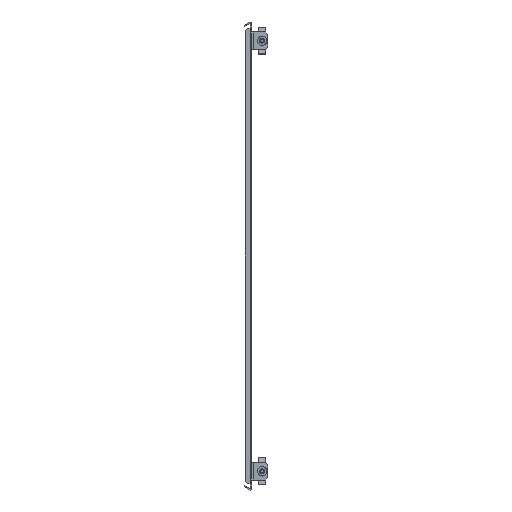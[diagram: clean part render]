
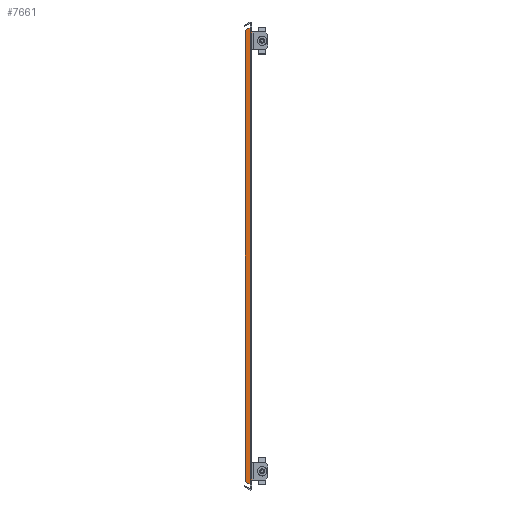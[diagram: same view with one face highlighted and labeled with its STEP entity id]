
A CAD part, front view. The second image highlights one B-rep face of the part: STEP entity #7661.
In plain terms, the highlighted planar face has unit normal (0, -1, 0).
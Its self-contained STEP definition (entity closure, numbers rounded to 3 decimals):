
#220 = ORIENTED_EDGE ( 'NONE', *, *, #38236, .T. ) ;
#692 = FACE_OUTER_BOUND ( 'NONE', #19513, .T. ) ;
#1293 = CARTESIAN_POINT ( 'NONE',  ( -147.948, -253., -147.948 ) ) ;
#1438 = DIRECTION ( 'NONE',  ( 0., 0., 1. ) ) ;
#1497 = ORIENTED_EDGE ( 'NONE', *, *, #9855, .T. ) ;
#1630 = LINE ( 'NONE', #7929, #17059 ) ;
#2051 = EDGE_CURVE ( 'NONE', #3740, #35624, #2896, .T. ) ;
#2461 = EDGE_CURVE ( 'NONE', #23800, #28836, #14486, .T. ) ;
#2492 = VECTOR ( 'NONE', #25855, 1000. ) ;
#2896 = LINE ( 'NONE', #21024, #17874 ) ;
#3355 = CARTESIAN_POINT ( 'NONE',  ( 0., -253., -263.75 ) ) ;
#3403 = VERTEX_POINT ( 'NONE', #3355 ) ;
#3740 = VERTEX_POINT ( 'NONE', #8061 ) ;
#3843 = DIRECTION ( 'NONE',  ( 0., 1., 0. ) ) ;
#4618 = LINE ( 'NONE', #26073, #17526 ) ;
#5310 = CARTESIAN_POINT ( 'NONE',  ( -5., -253., 290.897 ) ) ;
#5571 = ORIENTED_EDGE ( 'NONE', *, *, #26065, .T. ) ;
#7506 = VERTEX_POINT ( 'NONE', #9162 ) ;
#7661 = ADVANCED_FACE ( 'NONE', ( #692 ), #18799, .F. ) ;
#7745 = LINE ( 'NONE', #37839, #2492 ) ;
#7929 = CARTESIAN_POINT ( 'NONE',  ( 0., -253., 0. ) ) ;
#8061 = CARTESIAN_POINT ( 'NONE',  ( 0., -253., 263.75 ) ) ;
#8942 = LINE ( 'NONE', #29443, #11850 ) ;
#9162 = CARTESIAN_POINT ( 'NONE',  ( 0., -253., -290.897 ) ) ;
#9855 = EDGE_CURVE ( 'NONE', #3403, #3740, #1630, .T. ) ;
#11125 = VERTEX_POINT ( 'NONE', #14265 ) ;
#11133 = DIRECTION ( 'NONE',  ( 0., 0., 1. ) ) ;
#11480 = VECTOR ( 'NONE', #21569, 1000. ) ;
#11850 = VECTOR ( 'NONE', #20963, 1000. ) ;
#12233 = ORIENTED_EDGE ( 'NONE', *, *, #29941, .T. ) ;
#13794 = EDGE_CURVE ( 'NONE', #7506, #37193, #26793, .T. ) ;
#14078 = LINE ( 'NONE', #26106, #24958 ) ;
#14265 = CARTESIAN_POINT ( 'NONE',  ( -5., -253., -290.897 ) ) ;
#14486 = LINE ( 'NONE', #17254, #16101 ) ;
#15332 = VERTEX_POINT ( 'NONE', #5310 ) ;
#15739 = CARTESIAN_POINT ( 'NONE',  ( 0., -253., 286.095 ) ) ;
#16047 = LINE ( 'NONE', #1293, #11480 ) ;
#16101 = VECTOR ( 'NONE', #35732, 1000. ) ;
#16614 = DIRECTION ( 'NONE',  ( 0., 0., 1. ) ) ;
#16757 = ORIENTED_EDGE ( 'NONE', *, *, #2461, .T. ) ;
#17059 = VECTOR ( 'NONE', #1438, 1000. ) ;
#17254 = CARTESIAN_POINT ( 'NONE',  ( -8., -253., 0. ) ) ;
#17317 = CARTESIAN_POINT ( 'NONE',  ( 0., -253., -286.095 ) ) ;
#17526 = VECTOR ( 'NONE', #16614, 1000. ) ;
#17874 = VECTOR ( 'NONE', #29879, 1000. ) ;
#18291 = CARTESIAN_POINT ( 'NONE',  ( 0., -253., 0. ) ) ;
#18757 = LINE ( 'NONE', #36268, #31298 ) ;
#18799 = PLANE ( 'NONE',  #26322 ) ;
#19513 = EDGE_LOOP ( 'NONE', ( #5571, #31266, #12233, #1497, #33182, #23141, #21737, #23809, #16757, #220 ) ) ;
#20264 = EDGE_CURVE ( 'NONE', #15332, #23800, #8942, .T. ) ;
#20963 = DIRECTION ( 'NONE',  ( -0.707, 0., -0.707 ) ) ;
#21024 = CARTESIAN_POINT ( 'NONE',  ( 0., -253., 0. ) ) ;
#21569 = DIRECTION ( 'NONE',  ( 0.707, 0., -0.707 ) ) ;
#21737 = ORIENTED_EDGE ( 'NONE', *, *, #23152, .T. ) ;
#22122 = DIRECTION ( 'NONE',  ( 1., 0., 0. ) ) ;
#23141 = ORIENTED_EDGE ( 'NONE', *, *, #25876, .T. ) ;
#23152 = EDGE_CURVE ( 'NONE', #36315, #15332, #7745, .T. ) ;
#23489 = CARTESIAN_POINT ( 'NONE',  ( -8., -253., -287.897 ) ) ;
#23800 = VERTEX_POINT ( 'NONE', #30096 ) ;
#23809 = ORIENTED_EDGE ( 'NONE', *, *, #20264, .T. ) ;
#24958 = VECTOR ( 'NONE', #11133, 1000. ) ;
#25855 = DIRECTION ( 'NONE',  ( -1., 0., 0. ) ) ;
#25876 = EDGE_CURVE ( 'NONE', #35624, #36315, #14078, .T. ) ;
#26065 = EDGE_CURVE ( 'NONE', #11125, #7506, #18757, .T. ) ;
#26073 = CARTESIAN_POINT ( 'NONE',  ( 0., -253., 0. ) ) ;
#26106 = CARTESIAN_POINT ( 'NONE',  ( 0., -253., 0. ) ) ;
#26322 = AXIS2_PLACEMENT_3D ( 'NONE', #30831, #3843, #27875 ) ;
#26793 = LINE ( 'NONE', #18291, #26796 ) ;
#26796 = VECTOR ( 'NONE', #30314, 1000. ) ;
#27875 = DIRECTION ( 'NONE',  ( 1., 0., 0. ) ) ;
#28836 = VERTEX_POINT ( 'NONE', #23489 ) ;
#29443 = CARTESIAN_POINT ( 'NONE',  ( -147.948, -253., 147.948 ) ) ;
#29879 = DIRECTION ( 'NONE',  ( 0., 0., 1. ) ) ;
#29941 = EDGE_CURVE ( 'NONE', #37193, #3403, #4618, .T. ) ;
#30096 = CARTESIAN_POINT ( 'NONE',  ( -8., -253., 287.897 ) ) ;
#30314 = DIRECTION ( 'NONE',  ( 0., 0., 1. ) ) ;
#30831 = CARTESIAN_POINT ( 'NONE',  ( 0., -253., 0. ) ) ;
#31266 = ORIENTED_EDGE ( 'NONE', *, *, #13794, .T. ) ;
#31298 = VECTOR ( 'NONE', #22122, 1000. ) ;
#33182 = ORIENTED_EDGE ( 'NONE', *, *, #2051, .T. ) ;
#35624 = VERTEX_POINT ( 'NONE', #15739 ) ;
#35732 = DIRECTION ( 'NONE',  ( 0., 0., -1. ) ) ;
#36268 = CARTESIAN_POINT ( 'NONE',  ( 0., -253., -290.897 ) ) ;
#36315 = VERTEX_POINT ( 'NONE', #38447 ) ;
#37193 = VERTEX_POINT ( 'NONE', #17317 ) ;
#37839 = CARTESIAN_POINT ( 'NONE',  ( 0., -253., 290.897 ) ) ;
#38236 = EDGE_CURVE ( 'NONE', #28836, #11125, #16047, .T. ) ;
#38447 = CARTESIAN_POINT ( 'NONE',  ( 0., -253., 290.897 ) ) ;
